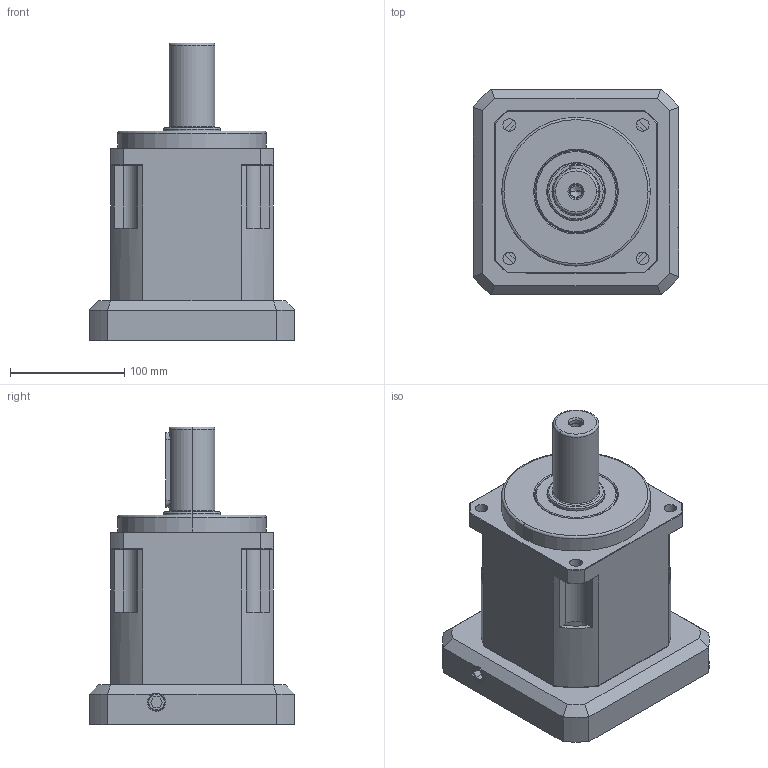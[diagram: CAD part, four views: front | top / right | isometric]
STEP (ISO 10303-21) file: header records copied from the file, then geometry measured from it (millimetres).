
FILE_DESCRIPTION (( 'STEP AP203' ), '1' );
FILE_NAME ('SB142-1-114.3M12-K.step', '2021-05-25T05:43:40', ( '' ), ( '' ), 'SwSTEP 2.0', 'SolidWorks 2020', '' );
FILE_SCHEMA (( 'CONFIG_CONTROL_DESIGN' ));
Length unit declared in the file: millimetre
Products named in the file (1): SB142-1-114.3M12-K
Bounding box: 180 x 180 x 260.5 mm (x, y, z)
Volume: 2720306.8 mm3; surface area: 352234.2 mm2
Topology: 2 solids, 15 shells, 961 faces, 2344 edges, 1430 vertices
Faces by surface type: cylinder 336, plane 332, cone 186, torus 91, sphere 16
Entity records: 28731 total; most frequent: CARTESIAN_POINT 5602, DIRECTION 5250, ORIENTED_EDGE 4596, EDGE_CURVE 2298, AXIS2_PLACEMENT_3D 2108, VERTEX_POINT 1422, CIRCLE 1146, EDGE_LOOP 1052
